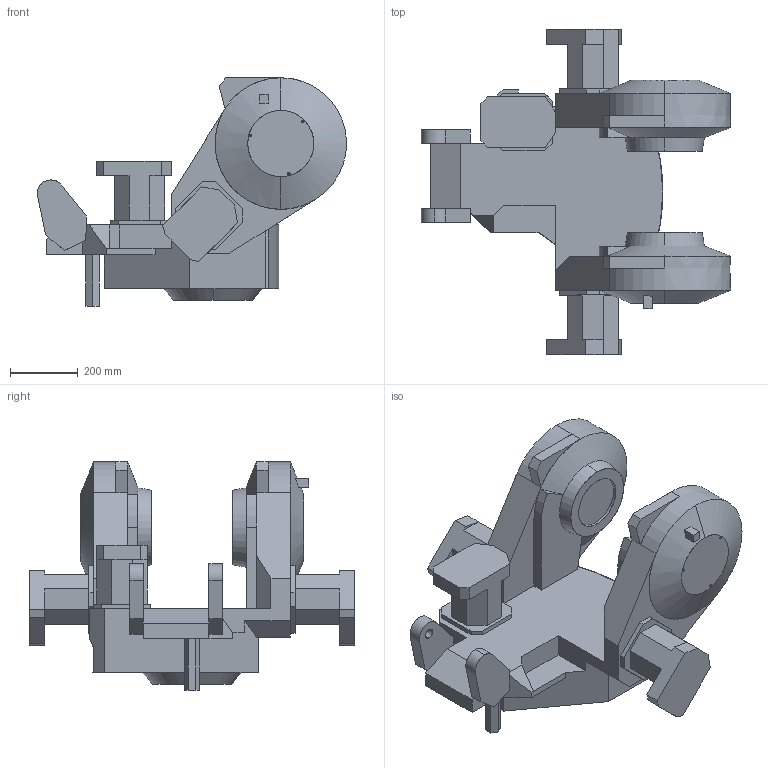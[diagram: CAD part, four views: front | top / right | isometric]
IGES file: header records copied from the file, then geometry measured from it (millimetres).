
Start section: SolidWorks IGES file using analytic representation for surfaces
Global section: file name: C:\Users\sefaane2\Downloads\Sparad modell IRB4400 10\Final SolidWorks CADSIM models and .txt file\Macro\Macro_IRC5_IGES_j\IRB4400_L10-253_IRC5_rev03_LINK01_CAD.IGS; native system: SolidWorks 2014; preprocessor: SolidWorks 2014; author: SEFAANE2; date: 161103.132501; units: millimetre
Bounding box: 912 x 958.6 x 674 mm (x, y, z)
Surface area: 2436000 mm2 (no closed solid volume)
Topology: 0 solids, 0 shells, 234 faces, 2643 edges, 2631 vertices
Faces by surface type: bspline 179, revolution 55
